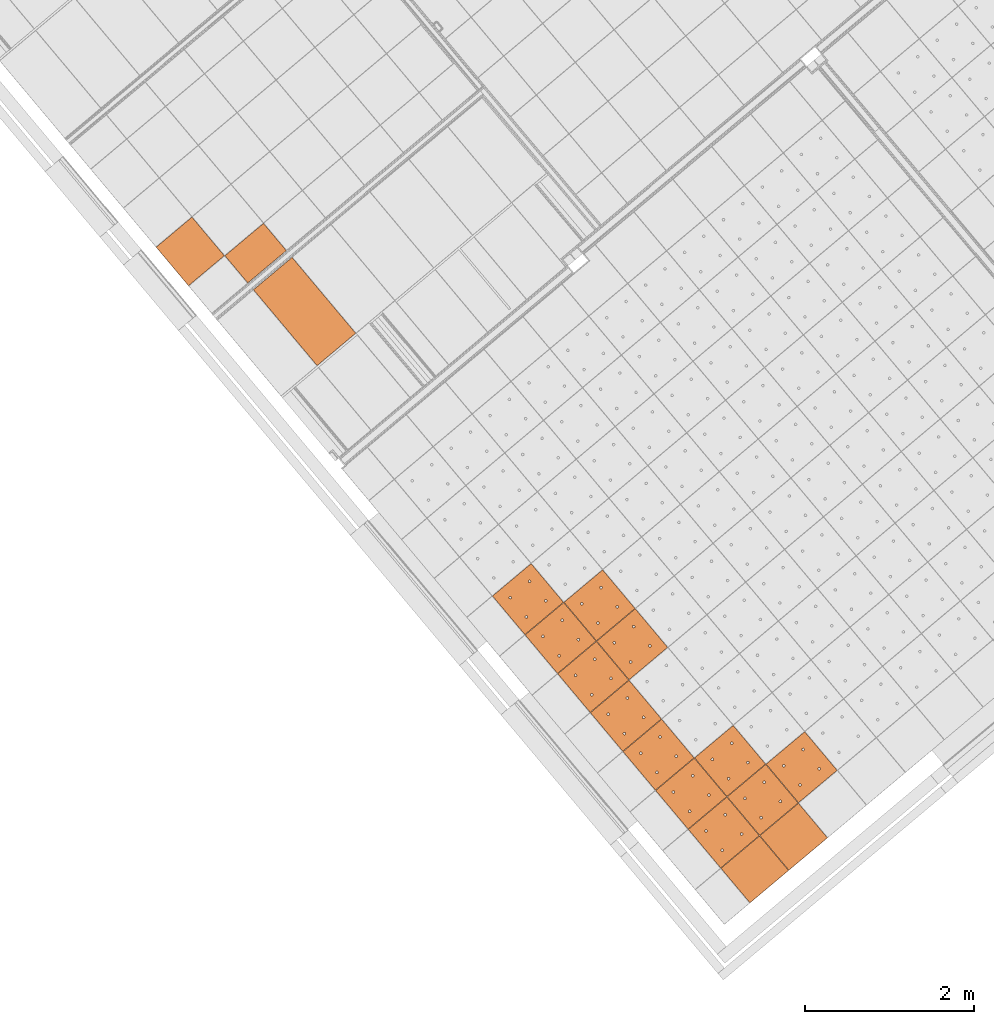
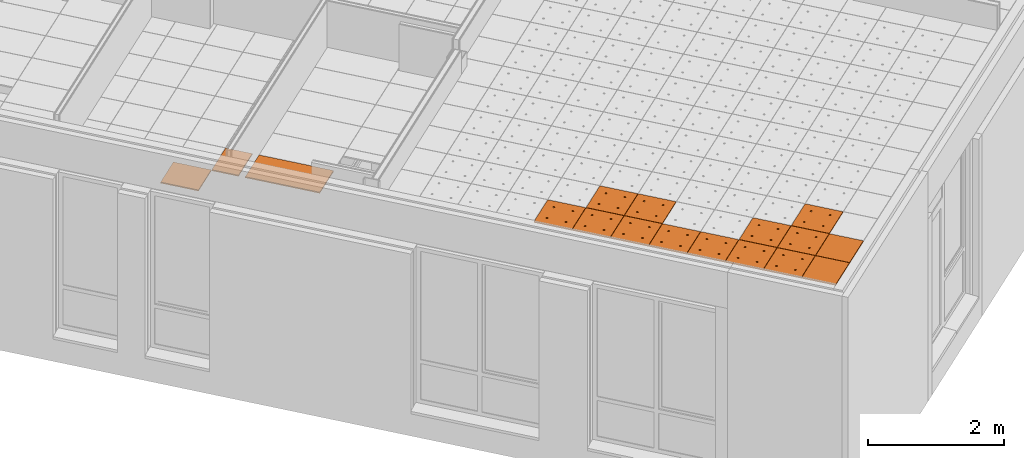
# One storey, part 125 of 338: 17 proxies, 3 elements without a shape of their own.
"""IFC2X3 building model written with IfcOpenShell, lengths in millimetres."""

from ifc_helpers import new_model, entity, si_unit, converted_unit, derived_unit, money_unit, direction, frame, origin_with_axes, place, context, subcontext, project, spatial, faceted_brep, source, transform, mapped, material, type_object, type_shapes, element, aggregate, save


model = new_model("IFC2X3")

# Units and contexts
model_context = context("Model", 3, precision=0.01, world=origin_with_axes(), true_north=direction((0.0, 1.0)))
plan_context = context("Plan", 3, precision=0.01, world=origin_with_axes(), true_north=direction((0.0, 1.0)))
body_context = subcontext(model_context, "Body", "Model", "MODEL_VIEW")
ifc_project = project(units=[si_unit("LENGTHUNIT", "METRE", prefix="MILLI"), si_unit("AREAUNIT", "SQUARE_METRE"), si_unit("VOLUMEUNIT", "CUBIC_METRE"), converted_unit("PLANEANGLEUNIT", "DEGREE", entity("IfcPlaneAngleMeasure", 0.0174532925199), si_unit("PLANEANGLEUNIT", "RADIAN"), dimensions=[0, 0, 0, 0, 0, 0, 0]), money_unit("EUR"), converted_unit("TIMEUNIT", "Year", entity("IfcTimeMeasure", 31556926.0), si_unit("TIMEUNIT", "SECOND"), dimensions=[0, 0, 1, 0, 0, 0, 0]), si_unit("MASSUNIT", "GRAM", prefix="KILO"), si_unit("THERMODYNAMICTEMPERATUREUNIT", "DEGREE_CELSIUS"), si_unit("LUMINOUSINTENSITYUNIT", "LUMEN"), si_unit("ENERGYUNIT", "JOULE", prefix="MEGA"), derived_unit("THERMALCONDUCTANCEUNIT", [(si_unit("POWERUNIT", "WATT"), 1), (si_unit("LENGTHUNIT", "METRE"), -1), (si_unit("THERMODYNAMICTEMPERATUREUNIT", "KELVIN"), -1)]), derived_unit("SPECIFICHEATCAPACITYUNIT", [(si_unit("ENERGYUNIT", "JOULE"), 1), (si_unit("MASSUNIT", "GRAM", prefix="KILO"), -1), (si_unit("THERMODYNAMICTEMPERATUREUNIT", "KELVIN"), -1)]), derived_unit("MASSDENSITYUNIT", [(si_unit("MASSUNIT", "GRAM", prefix="KILO"), 1), (si_unit("VOLUMEUNIT", "CUBIC_METRE"), -1)])], contexts=[model_context, plan_context])

# Site, building, storey
site_placement = place(None, origin_with_axes())
site = spatial("IfcSite", under=ifc_project, at=site_placement, Name="Fortuinstraat Woensdrecht", CompositionType="ELEMENT")
building_placement = place(site_placement, origin_with_axes())
building = spatial("IfcBuilding", under=site, at=building_placement, Name="IKC Fortuna", CompositionType="ELEMENT")
storey_placement = place(building_placement, origin_with_axes())
storey = spatial("IfcBuildingStorey", under=building, at=storey_placement, Name="00 begane grond", CompositionType="ELEMENT", Elevation=0.0)

# Covering, proxies
covering_type = type_object("IfcCoveringType", Name="Curtain Wall Type", PredefinedType="CEILING")
covering_1_placement = place(storey_placement, frame((15150.6418133, -6622.13986243, 4660.0), z_axis=(0.0, 0.0, 1.0), x_axis=(1.0, 0.0, 0.0)))
covering_1 = element("IfcCovering", 1, at=covering_1_placement, inside=storey, type_object=covering_type, Name="45_Plafondafwerking_P01", PredefinedType="CEILING")
ifc_material = material(Name="Gipsplaat")
building_element_proxy_type_1 = type_object("IfcBuildingElementProxyType", Name="Main Panel 600 x 600 x 20", PredefinedType="NOTDEFINED")
shared_shape_1 = source(origin_with_axes(), body_context, "Body", "Brep", [
    faceted_brep([(2.49999999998, 2.49999999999, -10.0), (300.0, 2.49999999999, -10.0), (300.0, 2.49999999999, 10.0), (2.49999999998, 2.49999999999, 10.0), (2.49999999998, 300.0, -10.0), (2.49999999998, 597.5, -10.0), (300.0, 597.5, -10.0), (597.5, 597.5, -10.0), (597.5, 300.0, -10.0), (597.5, 2.49999999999, -10.0), (166.25, 450.06232995, -10.0), (165.79423259, 452.64711538, -10.0), (164.896546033, 455.11348892, -10.0), (163.58421608, 457.38651108, -10.0), (161.897117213, 459.39711721, -10.0), (159.886511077, 461.08421608, -10.0), (157.613488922, 462.39654603, -10.0), (155.147115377, 463.29423259, -10.0), (152.562329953, 463.75, -10.0), (149.937670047, 463.75, -10.0), (147.352884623, 463.29423259, -10.0), (144.886511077, 462.39654603, -10.0), (142.613488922, 461.08421608, -10.0), (140.602882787, 459.39711721, -10.0), (138.91578392, 457.38651108, -10.0), (137.603453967, 455.11348892, -10.0), (136.705767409, 452.64711538, -10.0), (136.25, 450.06232995, -10.0), (136.25, 448.75, -10.0), (136.25, 447.43767005, -10.0), (136.705767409, 444.85288462, -10.0), (137.603453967, 442.38651108, -10.0), (138.91578392, 440.11348892, -10.0), (140.602882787, 438.10288279, -10.0), (142.613488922, 436.41578392, -10.0), (144.886511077, 435.10345397, -10.0), (147.352884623, 434.20576741, -10.0), (149.937670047, 433.75, -10.0), (152.562329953, 433.75, -10.0), (155.147115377, 434.20576741, -10.0), (157.613488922, 435.10345397, -10.0), (159.886511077, 436.41578392, -10.0), (161.897117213, 438.10288279, -10.0), (163.58421608, 440.11348892, -10.0), (164.896546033, 442.38651108, -10.0), (165.79423259, 444.85288462, -10.0), (166.25, 447.43767005, -10.0), (463.75, 450.06232995, -10.0), (463.29423259, 452.64711538, -10.0), (462.396546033, 455.11348892, -10.0), (461.08421608, 457.38651108, -10.0), (459.397117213, 459.39711721, -10.0), (457.386511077, 461.08421608, -10.0), (455.113488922, 462.39654603, -10.0), (452.647115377, 463.29423259, -10.0), (450.062329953, 463.75, -10.0), (447.437670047, 463.75, -10.0), (444.852884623, 463.29423259, -10.0), (442.386511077, 462.39654603, -10.0), (440.113488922, 461.08421608, -10.0), (438.102882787, 459.39711721, -10.0), (436.41578392, 457.38651108, -10.0), (435.103453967, 455.11348892, -10.0), (434.205767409, 452.64711538, -10.0), (433.75, 450.06232995, -10.0), (433.75, 448.75, -10.0), (433.75, 447.43767005, -10.0), (434.205767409, 444.85288462, -10.0), (435.103453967, 442.38651108, -10.0), (436.41578392, 440.11348892, -10.0), (438.102882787, 438.10288279, -10.0), (440.113488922, 436.41578392, -10.0), (442.386511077, 435.10345397, -10.0), (444.852884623, 434.20576741, -10.0), (447.437670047, 433.75, -10.0), (450.062329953, 433.75, -10.0), (452.647115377, 434.20576741, -10.0), (455.113488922, 435.10345397, -10.0), (457.386511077, 436.41578392, -10.0), (459.397117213, 438.10288279, -10.0), (461.08421608, 440.11348892, -10.0), (462.396546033, 442.38651108, -10.0), (463.29423259, 444.85288462, -10.0), (463.75, 447.43767005, -10.0), (463.75, 152.56232995, -10.0), (463.29423259, 155.14711538, -10.0), (462.396546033, 157.61348892, -10.0), (461.08421608, 159.88651108, -10.0), (459.397117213, 161.89711721, -10.0), (457.386511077, 163.58421608, -10.0), (455.113488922, 164.89654603, -10.0), (452.647115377, 165.79423259, -10.0), (450.062329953, 166.25, -10.0), (447.437670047, 166.25, -10.0), (444.852884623, 165.79423259, -10.0), (442.386511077, 164.89654603, -10.0), (440.113488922, 163.58421608, -10.0), (438.102882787, 161.89711721, -10.0), (436.41578392, 159.88651108, -10.0), (435.103453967, 157.61348892, -10.0), (434.205767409, 155.14711538, -10.0), (433.75, 152.56232995, -10.0), (433.75, 151.25, -10.0), (433.75, 149.93767005, -10.0), (434.205767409, 147.35288462, -10.0), (435.103453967, 144.88651108, -10.0), (436.41578392, 142.61348892, -10.0), (438.102882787, 140.60288279, -10.0), (440.113488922, 138.91578392, -10.0), (442.386511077, 137.60345397, -10.0), (444.852884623, 136.70576741, -10.0), (447.437670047, 136.25, -10.0), (450.062329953, 136.25, -10.0), (452.647115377, 136.70576741, -10.0), (455.113488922, 137.60345397, -10.0), (457.386511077, 138.91578392, -10.0), (459.397117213, 140.60288279, -10.0), (461.08421608, 142.61348892, -10.0), (462.396546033, 144.88651108, -10.0), (463.29423259, 147.35288462, -10.0), (463.75, 149.93767005, -10.0), (166.25, 152.56232995, -10.0), (165.79423259, 155.14711538, -10.0), (164.896546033, 157.61348892, -10.0), (163.58421608, 159.88651108, -10.0), (161.897117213, 161.89711721, -10.0), (159.886511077, 163.58421608, -10.0), (157.613488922, 164.89654603, -10.0), (155.147115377, 165.79423259, -10.0), (152.562329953, 166.25, -10.0), (149.937670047, 166.25, -10.0), (147.352884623, 165.79423259, -10.0), (144.886511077, 164.89654603, -10.0), (142.613488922, 163.58421608, -10.0), (140.602882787, 161.89711721, -10.0), (138.91578392, 159.88651108, -10.0), (137.603453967, 157.61348892, -10.0), (136.705767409, 155.14711538, -10.0), (136.25, 152.56232995, -10.0), (136.25, 151.25, -10.0), (136.25, 149.93767005, -10.0), (136.705767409, 147.35288462, -10.0), (137.603453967, 144.88651108, -10.0), (138.91578392, 142.61348892, -10.0), (140.602882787, 140.60288279, -10.0), (142.613488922, 138.91578392, -10.0), (144.886511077, 137.60345397, -10.0), (147.352884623, 136.70576741, -10.0), (149.937670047, 136.25, -10.0), (152.562329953, 136.25, -10.0), (155.147115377, 136.70576741, -10.0), (157.613488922, 137.60345397, -10.0), (159.886511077, 138.91578392, -10.0), (161.897117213, 140.60288279, -10.0), (163.58421608, 142.61348892, -10.0), (164.896546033, 144.88651108, -10.0), (165.79423259, 147.35288462, -10.0), (166.25, 149.93767005, -10.0), (597.5, 2.49999999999, 10.0), (597.5, 300.0, 10.0), (597.5, 597.5, 10.0), (300.0, 597.5, 10.0), (2.49999999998, 597.5, 10.0), (2.49999999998, 300.0, 10.0), (166.25, 450.06232995, 10.0), (166.25, 447.43767005, 10.0), (165.79423259, 444.85288462, 10.0), (164.896546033, 442.38651108, 10.0), (163.58421608, 440.11348892, 10.0), (161.897117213, 438.10288279, 10.0), (159.886511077, 436.41578392, 10.0), (157.613488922, 435.10345397, 10.0), (155.147115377, 434.20576741, 10.0), (152.562329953, 433.75, 10.0), (149.937670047, 433.75, 10.0), (147.352884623, 434.20576741, 10.0), (144.886511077, 435.10345397, 10.0), (142.613488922, 436.41578392, 10.0), (140.602882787, 438.10288279, 10.0), (138.91578392, 440.11348892, 10.0), (137.603453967, 442.38651108, 10.0), (136.705767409, 444.85288462, 10.0), (136.25, 447.43767005, 10.0), (136.25, 448.75, 10.0), (136.25, 450.06232995, 10.0), (136.705767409, 452.64711538, 10.0), (137.603453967, 455.11348892, 10.0), (138.91578392, 457.38651108, 10.0), (140.602882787, 459.39711721, 10.0), (142.613488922, 461.08421608, 10.0), (144.886511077, 462.39654603, 10.0), (147.352884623, 463.29423259, 10.0), (149.937670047, 463.75, 10.0), (152.562329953, 463.75, 10.0), (155.147115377, 463.29423259, 10.0), (157.613488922, 462.39654603, 10.0), (159.886511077, 461.08421608, 10.0), (161.897117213, 459.39711721, 10.0), (163.58421608, 457.38651108, 10.0), (164.896546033, 455.11348892, 10.0), (165.79423259, 452.64711538, 10.0), (463.75, 450.06232995, 10.0), (463.75, 447.43767005, 10.0), (463.29423259, 444.85288462, 10.0), (462.396546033, 442.38651108, 10.0), (461.08421608, 440.11348892, 10.0), (459.397117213, 438.10288279, 10.0), (457.386511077, 436.41578392, 10.0), (455.113488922, 435.10345397, 10.0), (452.647115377, 434.20576741, 10.0), (450.062329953, 433.75, 10.0), (447.437670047, 433.75, 10.0), (444.852884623, 434.20576741, 10.0), (442.386511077, 435.10345397, 10.0), (440.113488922, 436.41578392, 10.0), (438.102882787, 438.10288279, 10.0), (436.41578392, 440.11348892, 10.0), (435.103453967, 442.38651108, 10.0), (434.205767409, 444.85288462, 10.0), (433.75, 447.43767005, 10.0), (433.75, 448.75, 10.0), (433.75, 450.06232995, 10.0), (434.205767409, 452.64711538, 10.0), (435.103453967, 455.11348892, 10.0), (436.41578392, 457.38651108, 10.0), (438.102882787, 459.39711721, 10.0), (440.113488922, 461.08421608, 10.0), (442.386511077, 462.39654603, 10.0), (444.852884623, 463.29423259, 10.0), (447.437670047, 463.75, 10.0), (450.062329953, 463.75, 10.0), (452.647115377, 463.29423259, 10.0), (455.113488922, 462.39654603, 10.0), (457.386511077, 461.08421608, 10.0), (459.397117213, 459.39711721, 10.0), (461.08421608, 457.38651108, 10.0), (462.396546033, 455.11348892, 10.0), (463.29423259, 452.64711538, 10.0), (463.75, 152.56232995, 10.0), (463.75, 149.93767005, 10.0), (463.29423259, 147.35288462, 10.0), (462.396546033, 144.88651108, 10.0), (461.08421608, 142.61348892, 10.0), (459.397117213, 140.60288279, 10.0), (457.386511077, 138.91578392, 10.0), (455.113488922, 137.60345397, 10.0), (452.647115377, 136.70576741, 10.0), (450.062329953, 136.25, 10.0), (447.437670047, 136.25, 10.0), (444.852884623, 136.70576741, 10.0), (442.386511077, 137.60345397, 10.0), (440.113488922, 138.91578392, 10.0), (438.102882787, 140.60288279, 10.0), (436.41578392, 142.61348892, 10.0), (435.103453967, 144.88651108, 10.0), (434.205767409, 147.35288462, 10.0), (433.75, 149.93767005, 10.0), (433.75, 151.25, 10.0), (433.75, 152.56232995, 10.0), (434.205767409, 155.14711538, 10.0), (435.103453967, 157.61348892, 10.0), (436.41578392, 159.88651108, 10.0), (438.102882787, 161.89711721, 10.0), (440.113488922, 163.58421608, 10.0), (442.386511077, 164.89654603, 10.0), (444.852884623, 165.79423259, 10.0), (447.437670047, 166.25, 10.0), (450.062329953, 166.25, 10.0), (452.647115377, 165.79423259, 10.0), (455.113488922, 164.89654603, 10.0), (457.386511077, 163.58421608, 10.0), (459.397117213, 161.89711721, 10.0), (461.08421608, 159.88651108, 10.0), (462.396546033, 157.61348892, 10.0), (463.29423259, 155.14711538, 10.0), (166.25, 152.56232995, 10.0), (166.25, 149.93767005, 10.0), (165.79423259, 147.35288462, 10.0), (164.896546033, 144.88651108, 10.0), (163.58421608, 142.61348892, 10.0), (161.897117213, 140.60288279, 10.0), (159.886511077, 138.91578392, 10.0), (157.613488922, 137.60345397, 10.0), (155.147115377, 136.70576741, 10.0), (152.562329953, 136.25, 10.0), (149.937670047, 136.25, 10.0), (147.352884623, 136.70576741, 10.0), (144.886511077, 137.60345397, 10.0), (142.613488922, 138.91578392, 10.0), (140.602882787, 140.60288279, 10.0), (138.91578392, 142.61348892, 10.0), (137.603453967, 144.88651108, 10.0), (136.705767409, 147.35288462, 10.0), (136.25, 149.93767005, 10.0), (136.25, 151.25, 10.0), (136.25, 152.56232995, 10.0), (136.705767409, 155.14711538, 10.0), (137.603453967, 157.61348892, 10.0), (138.91578392, 159.88651108, 10.0), (140.602882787, 161.89711721, 10.0), (142.613488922, 163.58421608, 10.0), (144.886511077, 164.89654603, 10.0), (147.352884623, 165.79423259, 10.0), (149.937670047, 166.25, 10.0), (152.562329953, 166.25, 10.0), (155.147115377, 165.79423259, 10.0), (157.613488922, 164.89654603, 10.0), (159.886511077, 163.58421608, 10.0), (161.897117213, 161.89711721, 10.0), (163.58421608, 159.88651108, 10.0), (164.896546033, 157.61348892, 10.0), (165.79423259, 155.14711538, 10.0)], [[[0, 1, 2, 3]], [[0, 4, 5, 6, 7, 8, 9, 1], [10, 11, 12, 13, 14, 15, 16, 17, 18, 19, 20, 21, 22, 23, 24, 25, 26, 27, 28, 29, 30, 31, 32, 33, 34, 35, 36, 37, 38, 39, 40, 41, 42, 43, 44, 45, 46], [47, 48, 49, 50, 51, 52, 53, 54, 55, 56, 57, 58, 59, 60, 61, 62, 63, 64, 65, 66, 67, 68, 69, 70, 71, 72, 73, 74, 75, 76, 77, 78, 79, 80, 81, 82, 83], [84, 85, 86, 87, 88, 89, 90, 91, 92, 93, 94, 95, 96, 97, 98, 99, 100, 101, 102, 103, 104, 105, 106, 107, 108, 109, 110, 111, 112, 113, 114, 115, 116, 117, 118, 119, 120], [121, 122, 123, 124, 125, 126, 127, 128, 129, 130, 131, 132, 133, 134, 135, 136, 137, 138, 139, 140, 141, 142, 143, 144, 145, 146, 147, 148, 149, 150, 151, 152, 153, 154, 155, 156, 157]], [[1, 9, 158, 2]], [[3, 2, 158, 159, 160, 161, 162, 163], [164, 165, 166, 167, 168, 169, 170, 171, 172, 173, 174, 175, 176, 177, 178, 179, 180, 181, 182, 183, 184, 185, 186, 187, 188, 189, 190, 191, 192, 193, 194, 195, 196, 197, 198, 199, 200], [201, 202, 203, 204, 205, 206, 207, 208, 209, 210, 211, 212, 213, 214, 215, 216, 217, 218, 219, 220, 221, 222, 223, 224, 225, 226, 227, 228, 229, 230, 231, 232, 233, 234, 235, 236, 237], [238, 239, 240, 241, 242, 243, 244, 245, 246, 247, 248, 249, 250, 251, 252, 253, 254, 255, 256, 257, 258, 259, 260, 261, 262, 263, 264, 265, 266, 267, 268, 269, 270, 271, 272, 273, 274], [275, 276, 277, 278, 279, 280, 281, 282, 283, 284, 285, 286, 287, 288, 289, 290, 291, 292, 293, 294, 295, 296, 297, 298, 299, 300, 301, 302, 303, 304, 305, 306, 307, 308, 309, 310, 311]], [[4, 0, 3, 163]], [[5, 4, 163, 162]], [[6, 5, 162, 161]], [[7, 6, 161, 160]], [[8, 7, 160, 159]], [[9, 8, 159, 158]], [[11, 10, 164, 200]], [[12, 11, 200, 199]], [[13, 12, 199, 198]], [[14, 13, 198, 197]], [[15, 14, 197, 196]], [[16, 15, 196, 195]], [[17, 16, 195, 194]], [[18, 17, 194, 193]], [[19, 18, 193, 192]], [[20, 19, 192, 191]], [[21, 20, 191, 190]], [[22, 21, 190, 189]], [[23, 22, 189, 188]], [[24, 23, 188, 187]], [[25, 24, 187, 186]], [[26, 25, 186, 185]], [[27, 26, 185, 184]], [[28, 27, 184, 183]], [[29, 28, 183, 182]], [[30, 29, 182, 181]], [[31, 30, 181, 180]], [[32, 31, 180, 179]], [[33, 32, 179, 178]], [[34, 33, 178, 177]], [[35, 34, 177, 176]], [[36, 35, 176, 175]], [[37, 36, 175, 174]], [[38, 37, 174, 173]], [[39, 38, 173, 172]], [[40, 39, 172, 171]], [[41, 40, 171, 170]], [[42, 41, 170, 169]], [[43, 42, 169, 168]], [[44, 43, 168, 167]], [[45, 44, 167, 166]], [[46, 45, 166, 165]], [[10, 46, 165, 164]], [[48, 47, 201, 237]], [[49, 48, 237, 236]], [[50, 49, 236, 235]], [[51, 50, 235, 234]], [[52, 51, 234, 233]], [[53, 52, 233, 232]], [[54, 53, 232, 231]], [[55, 54, 231, 230]], [[56, 55, 230, 229]], [[57, 56, 229, 228]], [[58, 57, 228, 227]], [[59, 58, 227, 226]], [[60, 59, 226, 225]], [[61, 60, 225, 224]], [[62, 61, 224, 223]], [[63, 62, 223, 222]], [[64, 63, 222, 221]], [[65, 64, 221, 220]], [[66, 65, 220, 219]], [[67, 66, 219, 218]], [[68, 67, 218, 217]], [[69, 68, 217, 216]], [[70, 69, 216, 215]], [[71, 70, 215, 214]], [[72, 71, 214, 213]], [[73, 72, 213, 212]], [[74, 73, 212, 211]], [[75, 74, 211, 210]], [[76, 75, 210, 209]], [[77, 76, 209, 208]], [[78, 77, 208, 207]], [[79, 78, 207, 206]], [[80, 79, 206, 205]], [[81, 80, 205, 204]], [[82, 81, 204, 203]], [[83, 82, 203, 202]], [[47, 83, 202, 201]], [[85, 84, 238, 274]], [[86, 85, 274, 273]], [[87, 86, 273, 272]], [[88, 87, 272, 271]], [[89, 88, 271, 270]], [[90, 89, 270, 269]], [[91, 90, 269, 268]], [[92, 91, 268, 267]], [[93, 92, 267, 266]], [[94, 93, 266, 265]], [[95, 94, 265, 264]], [[96, 95, 264, 263]], [[97, 96, 263, 262]], [[98, 97, 262, 261]], [[99, 98, 261, 260]], [[100, 99, 260, 259]], [[101, 100, 259, 258]], [[102, 101, 258, 257]], [[103, 102, 257, 256]], [[104, 103, 256, 255]], [[105, 104, 255, 254]], [[106, 105, 254, 253]], [[107, 106, 253, 252]], [[108, 107, 252, 251]], [[109, 108, 251, 250]], [[110, 109, 250, 249]], [[111, 110, 249, 248]], [[112, 111, 248, 247]], [[113, 112, 247, 246]], [[114, 113, 246, 245]], [[115, 114, 245, 244]], [[116, 115, 244, 243]], [[117, 116, 243, 242]], [[118, 117, 242, 241]], [[119, 118, 241, 240]], [[120, 119, 240, 239]], [[84, 120, 239, 238]], [[122, 121, 275, 311]], [[123, 122, 311, 310]], [[124, 123, 310, 309]], [[125, 124, 309, 308]], [[126, 125, 308, 307]], [[127, 126, 307, 306]], [[128, 127, 306, 305]], [[129, 128, 305, 304]], [[130, 129, 304, 303]], [[131, 130, 303, 302]], [[132, 131, 302, 301]], [[133, 132, 301, 300]], [[134, 133, 300, 299]], [[135, 134, 299, 298]], [[136, 135, 298, 297]], [[137, 136, 297, 296]], [[138, 137, 296, 295]], [[139, 138, 295, 294]], [[140, 139, 294, 293]], [[141, 140, 293, 292]], [[142, 141, 292, 291]], [[143, 142, 291, 290]], [[144, 143, 290, 289]], [[145, 144, 289, 288]], [[146, 145, 288, 287]], [[147, 146, 287, 286]], [[148, 147, 286, 285]], [[149, 148, 285, 284]], [[150, 149, 284, 283]], [[151, 150, 283, 282]], [[152, 151, 282, 281]], [[153, 152, 281, 280]], [[154, 153, 280, 279]], [[155, 154, 279, 278]], [[156, 155, 278, 277]], [[157, 156, 277, 276]], [[121, 157, 276, 275]]]),
])
type_shapes(building_element_proxy_type_1, [shared_shape_1])
proxy_1_placement = place(covering_1_placement, frame((-1084.56085372, -8827.350851, 2.17603712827e-10), z_axis=(0.0, 0.0, 1.0), x_axis=(1.0, 0.0, 0.0)))
proxy_1 = element("IfcBuildingElementProxy", 2, at=proxy_1_placement, type_object=building_element_proxy_type_1, material=ifc_material, Name="__600x664 Rockfon Krios", context=body_context, shape_type="MappedRepresentation", body=[
    mapped(shared_shape_1, transform((36.9769427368, 422.649625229, 0.0), x_axis=(-0.766044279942, -0.642787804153, 0.0), y_axis=(0.642787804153, -0.766044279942, 0.0), z_axis=(0.0, 0.0, 1.0))),
])
proxy_2_placement = place(covering_1_placement, frame((-2241.57890119, -7448.4711471, 2.17603712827e-10), z_axis=(0.0, 0.0, 1.0), x_axis=(1.0, 0.0, 0.0)))
proxy_2 = element("IfcBuildingElementProxy", 3, at=proxy_2_placement, type_object=building_element_proxy_type_1, material=ifc_material, Name="__600x673 Rockfon Krios", context=body_context, shape_type="MappedRepresentation", body=[
    mapped(shared_shape_1, transform((36.9769427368, 422.649625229, 0.0), x_axis=(-0.766044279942, -0.642787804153, 0.0), y_axis=(0.642787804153, -0.766044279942, 0.0), z_axis=(0.0, 0.0, 1.0))),
])
proxy_3_placement = place(covering_1_placement, frame((-3398.59694867, -6069.59144321, 2.17603712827e-10), z_axis=(0.0, 0.0, 1.0), x_axis=(1.0, 0.0, 0.0)))
proxy_3 = element("IfcBuildingElementProxy", 4, at=proxy_3_placement, type_object=building_element_proxy_type_1, material=ifc_material, Name="__600x674 Rockfon Krios", context=body_context, shape_type="MappedRepresentation", body=[
    mapped(shared_shape_1, transform((36.9769427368, 422.649625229, 0.0), x_axis=(-0.766044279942, -0.642787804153, 0.0), y_axis=(0.642787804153, -0.766044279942, 0.0), z_axis=(0.0, 0.0, 1.0))),
])
proxy_4_placement = place(covering_1_placement, frame((-1855.9062187, -7908.09771507, 2.17603712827e-10), z_axis=(0.0, 0.0, 1.0), x_axis=(1.0, 0.0, 0.0)))
proxy_4 = element("IfcBuildingElementProxy", 5, at=proxy_4_placement, type_object=building_element_proxy_type_1, material=ifc_material, Name="__600x676 Rockfon Krios", context=body_context, shape_type="MappedRepresentation", body=[
    mapped(shared_shape_1, transform((36.9769427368, 422.649625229, 0.0), x_axis=(-0.766044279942, -0.642787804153, 0.0), y_axis=(0.642787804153, -0.766044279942, 0.0), z_axis=(0.0, 0.0, 1.0))),
])
proxy_5_placement = place(covering_1_placement, frame((-2627.25158368, -6988.84457914, 2.17603712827e-10), z_axis=(0.0, 0.0, 1.0), x_axis=(1.0, 0.0, 0.0)))
proxy_5 = element("IfcBuildingElementProxy", 6, at=proxy_5_placement, type_object=building_element_proxy_type_1, material=ifc_material, Name="__600x677 Rockfon Krios", context=body_context, shape_type="MappedRepresentation", body=[
    mapped(shared_shape_1, transform((36.9769427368, 422.649625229, 0.0), x_axis=(-0.766044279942, -0.642787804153, 0.0), y_axis=(0.642787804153, -0.766044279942, 0.0), z_axis=(0.0, 0.0, 1.0))),
])
proxy_6_placement = place(covering_1_placement, frame((-624.93428575, -8441.67816851, 1.97175609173e-10), z_axis=(0.0, 0.0, 1.0), x_axis=(1.0, 0.0, 0.0)))
proxy_6 = element("IfcBuildingElementProxy", 7, at=proxy_6_placement, type_object=building_element_proxy_type_1, material=ifc_material, Name="__600x678 Rockfon Krios", context=body_context, shape_type="MappedRepresentation", body=[
    mapped(shared_shape_1, transform((36.9769427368, 422.649625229, 0.0), x_axis=(-0.766044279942, -0.642787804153, 0.0), y_axis=(0.642787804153, -0.766044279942, 0.0), z_axis=(0.0, 0.0, 1.0))),
])
proxy_7_placement = place(covering_1_placement, frame((-1010.60696824, -7982.05160054, 1.97175609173e-10), z_axis=(0.0, 0.0, 1.0), x_axis=(1.0, 0.0, 0.0)))
proxy_7 = element("IfcBuildingElementProxy", 8, at=proxy_7_placement, type_object=building_element_proxy_type_1, material=ifc_material, Name="__600x679 Rockfon Krios", context=body_context, shape_type="MappedRepresentation", body=[
    mapped(shared_shape_1, transform((36.9769427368, 422.649625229, 0.0), x_axis=(-0.766044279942, -0.642787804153, 0.0), y_axis=(0.642787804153, -0.766044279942, 0.0), z_axis=(0.0, 0.0, 1.0))),
])
proxy_8_placement = place(covering_1_placement, frame((-3012.92426617, -6529.21801117, 2.17603712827e-10), z_axis=(0.0, 0.0, 1.0), x_axis=(1.0, 0.0, 0.0)))
proxy_8 = element("IfcBuildingElementProxy", 9, at=proxy_8_placement, type_object=building_element_proxy_type_1, material=ifc_material, Name="__600x680 Rockfon Krios", context=body_context, shape_type="MappedRepresentation", body=[
    mapped(shared_shape_1, transform((36.9769427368, 422.649625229, 0.0), x_axis=(-0.766044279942, -0.642787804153, 0.0), y_axis=(0.642787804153, -0.766044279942, 0.0), z_axis=(0.0, 0.0, 1.0))),
])
proxy_9_placement = place(covering_1_placement, frame((-1470.23353621, -8367.72428303, 2.17603712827e-10), z_axis=(0.0, 0.0, 1.0), x_axis=(1.0, 0.0, 0.0)))
proxy_9 = element("IfcBuildingElementProxy", 10, at=proxy_9_placement, type_object=building_element_proxy_type_1, material=ifc_material, Name="__600x681 Rockfon Krios", context=body_context, shape_type="MappedRepresentation", body=[
    mapped(shared_shape_1, transform((36.9769427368, 422.649625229, 0.0), x_axis=(-0.766044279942, -0.642787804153, 0.0), y_axis=(0.642787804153, -0.766044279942, 0.0), z_axis=(0.0, 0.0, 1.0))),
])
proxy_10_placement = place(covering_1_placement, frame((-2167.62501572, -6603.17189664, 1.97175609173e-10), z_axis=(0.0, 0.0, 1.0), x_axis=(1.0, 0.0, 0.0)))
proxy_10 = element("IfcBuildingElementProxy", 11, at=proxy_10_placement, type_object=building_element_proxy_type_1, material=ifc_material, Name="__600x684 Rockfon Krios", context=body_context, shape_type="MappedRepresentation", body=[
    mapped(shared_shape_1, transform((36.9769427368, 422.649625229, 0.0), x_axis=(-0.766044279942, -0.642787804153, 0.0), y_axis=(0.642787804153, -0.766044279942, 0.0), z_axis=(0.0, 0.0, 1.0))),
])
proxy_11_placement = place(covering_1_placement, frame((-2553.29769821, -6143.54532868, 1.97175609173e-10), z_axis=(0.0, 0.0, 1.0), x_axis=(1.0, 0.0, 0.0)))
proxy_11 = element("IfcBuildingElementProxy", 12, at=proxy_11_placement, type_object=building_element_proxy_type_1, material=ifc_material, Name="__600x685 Rockfon Krios", context=body_context, shape_type="MappedRepresentation", body=[
    mapped(shared_shape_1, transform((36.9769427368, 422.649625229, 0.0), x_axis=(-0.766044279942, -0.642787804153, 0.0), y_axis=(0.642787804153, -0.766044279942, 0.0), z_axis=(0.0, 0.0, 1.0))),
])
proxy_12_placement = place(covering_1_placement, frame((-165.307717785, -8056.00548601, 1.7763568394e-10), z_axis=(0.0, 0.0, 1.0), x_axis=(1.0, 0.0, 0.0)))
proxy_12 = element("IfcBuildingElementProxy", 13, at=proxy_12_placement, type_object=building_element_proxy_type_1, material=ifc_material, Name="__600x689 Rockfon Krios", context=body_context, shape_type="MappedRepresentation", body=[
    mapped(shared_shape_1, transform((36.9769427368, 422.649625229, 0.0), x_axis=(-0.766044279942, -0.642787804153, 0.0), y_axis=(0.642787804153, -0.766044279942, 0.0), z_axis=(0.0, 0.0, 1.0))),
])

# Covering, proxy
covering_2_placement = place(storey_placement, frame((12053.0472686, -8408.71417201, 4260.0), z_axis=(0.0, 0.0, 1.0), x_axis=(1.0, 0.0, 0.0)))
covering_2 = element("IfcCovering", 14, at=covering_2_placement, inside=storey, type_object=covering_type, Name="45_Plafondafwerking_P02a", PredefinedType="CEILING")
building_element_proxy_type_2 = type_object("IfcBuildingElementProxyType", Name="Distinct Panel 600 x 1175 x 20", PredefinedType="NOTDEFINED")
shared_shape_2 = source(origin_with_axes(), body_context, "Body", "Brep", [
    faceted_brep([(-597.500011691, 27.5045918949, -10.0), (-597.500011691, 27.5045918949, 10.0), (-597.500015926, 1197.49999589, 10.0), (-597.500015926, 1197.49999589, -10.0), (-2.49999238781, 27.5046045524, -10.0), (-2.49999238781, 27.5046045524, 10.0), (-2.50000892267, 1197.49999389, 10.0), (-2.50000892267, 1197.49999389, -10.0)], [[[0, 1, 2, 3]], [[4, 5, 1, 0]], [[1, 5, 6, 2]], [[3, 2, 6, 7]], [[0, 3, 7, 4]], [[7, 6, 5, 4]]]),
])
type_shapes(building_element_proxy_type_2, [shared_shape_2])
proxy_13_placement = place(covering_2_placement, frame((-2940.51951897, -884.581657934, 0.0), z_axis=(0.0, 0.0, 1.0), x_axis=(1.0, 0.0, 0.0)))
proxy_13 = element("IfcBuildingElementProxy", 15, at=proxy_13_placement, type_object=building_element_proxy_type_2, material=ifc_material, Name="__Panel-D", context=body_context, shape_type="MappedRepresentation", body=[
    mapped(shared_shape_2, transform((-623.522262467, 276.367602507, 0.0), x_axis=(-0.766044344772, -0.642787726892, 0.0), y_axis=(0.642787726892, -0.766044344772, 0.0), z_axis=(0.0, 0.0, 1.0))),
])
aggregate(covering_2, [proxy_13])

# Covering, proxies
covering_3_placement = place(storey_placement, frame((6990.12644751, -7663.89158706, 4260.0), z_axis=(0.0, 0.0, 1.0), x_axis=(1.0, 0.0, 0.0)))
covering_3 = element("IfcCovering", 16, at=covering_3_placement, inside=storey, type_object=covering_type, Name="45_Plafondafwerking_P02", PredefinedType="CEILING")
building_element_proxy_type_3 = type_object("IfcBuildingElementProxyType", Name="Distinct Panel 557 x 600 x 20", PredefinedType="NOTDEFINED")
shared_shape_3 = source(origin_with_axes(), body_context, "Body", "Brep", [
    faceted_brep([(2.49999091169, 2.50000798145, -10.0), (554.485611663, 2.49999515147, -10.0), (554.485611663, 2.49999515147, 10.0), (2.49999091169, 2.50000798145, 10.0), (2.50000274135, 597.499992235, -10.0), (554.485604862, 597.499995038, -10.0), (554.485604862, 597.499995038, 10.0), (2.50000274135, 597.499992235, 10.0)], [[[0, 1, 2, 3]], [[0, 4, 5, 1]], [[1, 5, 6, 2]], [[3, 2, 6, 7]], [[4, 0, 3, 7]], [[5, 4, 7, 6]]]),
])
type_shapes(building_element_proxy_type_3, [shared_shape_3])
proxy_14_placement = place(covering_3_placement, frame((771.345364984, -919.253135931, 1.24344978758e-10), z_axis=(0.0, 0.0, 1.0), x_axis=(1.0, 0.0, 0.0)))
proxy_14 = element("IfcBuildingElementProxy", 17, at=proxy_14_placement, type_object=building_element_proxy_type_3, material=ifc_material, Name="__Panel-D", context=body_context, shape_type="MappedRepresentation", body=[
    mapped(shared_shape_3, transform((20.5014769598, 408.825060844, 0.0), x_axis=(-0.766044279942, -0.642787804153, 0.0), y_axis=(0.642787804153, -0.766044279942, 0.0), z_axis=(0.0, 0.0, 1.0))),
])
building_element_proxy_type_4 = type_object("IfcBuildingElementProxyType", Name="Distinct Panel 600 x 425 x 20", PredefinedType="NOTDEFINED")
shared_shape_4 = source(origin_with_axes(), body_context, "Body", "Brep", [
    faceted_brep([(2.49999503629, 2.4999980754, -10.0), (597.499988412, 2.50000757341, -10.0), (597.499988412, 2.50000757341, 10.0), (2.49999503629, 2.4999980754, 10.0), (2.50000078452, 422.451748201, -10.0), (597.500010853, 422.451743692, -10.0), (597.500010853, 422.451743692, 10.0), (2.50000078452, 422.451748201, 10.0)], [[[0, 1, 2, 3]], [[0, 4, 5, 1]], [[1, 5, 6, 2]], [[3, 2, 6, 7]], [[4, 0, 3, 7]], [[5, 4, 7, 6]]]),
])
type_shapes(building_element_proxy_type_4, [shared_shape_4])
proxy_15_placement = place(covering_3_placement, frame((1543.90970707, -939.984227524, 1.05693231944e-10), z_axis=(0.0, 0.0, 1.0), x_axis=(1.0, 0.0, 0.0)))
proxy_15 = element("IfcBuildingElementProxy", 18, at=proxy_15_placement, type_object=building_element_proxy_type_4, material=ifc_material, Name="__Panel-D", context=body_context, shape_type="MappedRepresentation", body=[
    mapped(shared_shape_4, transform((93.2363853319, 355.602266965, 0.0), x_axis=(-0.766044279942, -0.642787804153, 0.0), y_axis=(0.642787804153, -0.766044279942, 0.0), z_axis=(0.0, 0.0, 1.0))),
])
aggregate(covering_3, [proxy_14, proxy_15])

# Proxy
building_element_proxy_type_5 = type_object("IfcBuildingElementProxyType", Name="600 x 538 x 20", PredefinedType="NOTDEFINED")
shared_shape_5 = source(origin_with_axes(), body_context, "Body", "Brep", [
    faceted_brep([(2.49999356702, 2.5000047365, -10.0), (597.499998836, 2.49999810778, -10.0), (597.499998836, 2.49999810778, 10.0), (2.49999356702, 2.5000047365, 10.0), (2.49999991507, 535.002599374, -10.0), (597.500005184, 535.002592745, -10.0), (597.500005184, 535.002592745, 10.0), (2.49999991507, 535.002599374, 10.0)], [[[0, 1, 2, 3]], [[0, 4, 5, 1]], [[1, 5, 6, 2]], [[3, 2, 6, 7]], [[4, 0, 3, 7]], [[5, 4, 7, 6]]]),
])
type_shapes(building_element_proxy_type_5, [shared_shape_5])
proxy_16_placement = place(covering_1_placement, frame((-718.974455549, -9263.0395298, 2.17603712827e-10), z_axis=(0.0, 0.0, 1.0), x_axis=(1.0, 0.0, 0.0)))
proxy_16 = element("IfcBuildingElementProxy", 19, at=proxy_16_placement, type_object=building_element_proxy_type_5, material=ifc_material, Name="__600x688 Rockfon Krios", context=body_context, shape_type="MappedRepresentation", body=[
    mapped(shared_shape_5, transform((57.0632270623, 398.711736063, 0.0), x_axis=(-0.766044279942, -0.642787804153, 0.0), y_axis=(0.642787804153, -0.766044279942, 0.0), z_axis=(0.0, 0.0, 1.0))),
])

proxy_17_placement = place(covering_1_placement, frame((-259.347887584, -8877.36684731, 1.97175609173e-10), z_axis=(0.0, 0.0, 1.0), x_axis=(1.0, 0.0, 0.0)))
proxy_17 = element("IfcBuildingElementProxy", 20, at=proxy_17_placement, type_object=building_element_proxy_type_5, material=ifc_material, Name="__600x735 Rockfon Krios", context=body_context, shape_type="MappedRepresentation", body=[
    mapped(shared_shape_5, transform((57.0632270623, 398.711736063, 0.0), x_axis=(-0.766044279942, -0.642787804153, 0.0), y_axis=(0.642787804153, -0.766044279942, 0.0), z_axis=(0.0, 0.0, 1.0))),
])

aggregate(covering_1, [proxy_1, proxy_2, proxy_3, proxy_4, proxy_5, proxy_6, proxy_7, proxy_8, proxy_9, proxy_10, proxy_11, proxy_16, proxy_12, proxy_17])

save(model, "model.ifc")
